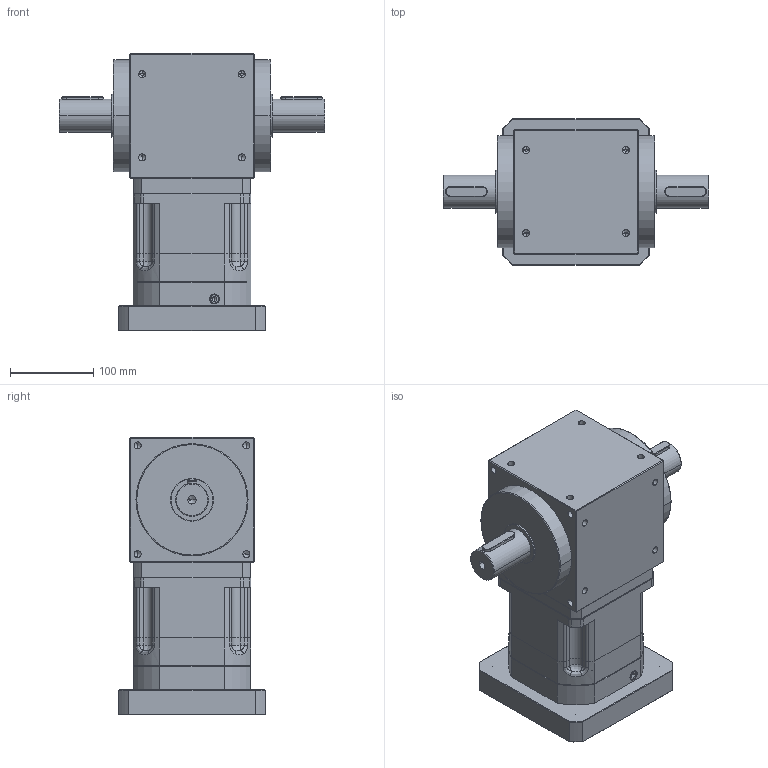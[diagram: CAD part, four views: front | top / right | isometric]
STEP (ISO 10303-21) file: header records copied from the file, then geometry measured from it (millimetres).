
FILE_DESCRIPTION (( 'STEP AP214' ), '1' );
FILE_NAME ('PAW150A-L1-2P(3-10) 35-114.3-200-M12.STEP', '2021-04-24T08:18:18', ( 'Microsoft' ), ( 'Microsoft China' ), 'SwSTEP 2.0', 'SolidWorks 2016', '' );
FILE_SCHEMA (( 'AUTOMOTIVE_DESIGN' ));
Length unit declared in the file: millimetre
Products named in the file (27): 一级齿圈Z108; PAW150A-L1-2P--35-114.3-200-M12; Hex socket set screws with flat point GB_GB_FASTENER_SCREWS_HSFP M12X16-N; 笢潔楊擘; Spring lock washers--Normal type GB_GB_FASTENER_WASHER_SW 8; Hexagon socket head cap screws GB_GB_FASTENER_SCREWS_HSHCS M10X35-N; Hexagon socket head cap screws GB_GB_FASTENER_SCREWS_HSHCS M10X30-N; Circlips for hole--Type B GB_GB_CONNECTING_PIECE_RINGS_CHB 80; 薊粣ん菜え35; Deep groove ball bearings GB_Rolling bearings 6011 GB 276-94; 薊粣ん35; PAW150A-L1-2P(3-10) 35-114.3-200-M12; 怮栠謫5; Plain parallel keys_GB_CONNECTING_PIECE_KEYS_CSK C6X18; Hexagon socket head cap screws GB_GB_FASTENER_SCREWS_HSHCS M8X35-N; Spring lock washers--Normal type GB_GB_FASTENER_WASHER_SW 10; 俴陎粣13.513; 俴陎謫5; 幗渀粣創13.513X18.513; Circlips for hole--Type B GB_GB_CONNECTING_PIECE_RINGS_CHB 110; 蚐猾60X110X12; 萇儂楊擘D114.3M12; Deep groove ball bearings GB_Rolling bearings 61821 GB 276-94; Deep groove ball bearings GB_Rolling bearings 6212 GB 276-94; 怀堤粣5; 俴陎謫菜え13.6X27; Circlips for shaft--Type A large GB_GB_CONNECTING_PIECE_RING_RRA 55
Assembly tree (54 placements, depth 2):
  PAW150A-L1-2P(3-10) 35-114.3-200-M12
    一级齿圈Z108
    怀堤粣5
    Deep groove ball bearings GB_Rolling bearings 6212 GB 276-94
    Deep groove ball bearings GB_Rolling bearings 61821 GB 276-94
    Deep groove ball bearings GB_Rolling bearings 6011 GB 276-94
    萇儂楊擘D114.3M12
    笢潔楊擘
    薊粣ん35
    蚐猾60X110X12
    Circlips for hole--Type B GB_GB_CONNECTING_PIECE_RINGS_CHB 110
    怮栠謫5
    俴陎粣13.513  x3
    幗渀粣創13.513X18.513  x3
    俴陎謫菜え13.6X27  x6
    俴陎謫5  x3
    Hex socket set screws with flat point GB_GB_FASTENER_SCREWS_HSFP M12X16-N  x2
    Spring lock washers--Normal type GB_GB_FASTENER_WASHER_SW 8  x4
    Hexagon socket head cap screws GB_GB_FASTENER_SCREWS_HSHCS M8X35-N  x4
    Hexagon socket head cap screws GB_GB_FASTENER_SCREWS_HSHCS M10X30-N
    Plain parallel keys_GB_CONNECTING_PIECE_KEYS_CSK C6X18
    Circlips for hole--Type B GB_GB_CONNECTING_PIECE_RINGS_CHB 80
    Spring lock washers--Normal type GB_GB_FASTENER_WASHER_SW 10  x6
    Hexagon socket head cap screws GB_GB_FASTENER_SCREWS_HSHCS M10X35-N  x6
    薊粣ん菜え35
    Circlips for shaft--Type A large GB_GB_CONNECTING_PIECE_RING_RRA 55
    PAW150A-L1-2P--35-114.3-200-M12
Bounding box: 320 x 176 x 333.5 mm (x, y, z)
Volume: 7350197 mm3; surface area: 797107.5 mm2
Topology: 54 solids, 54 shells, 2080 faces, 6219 edges, 3878 vertices
Faces by surface type: cylinder 665, bspline 569, plane 530, cone 276, torus 40
Entity records: 96165 total; most frequent: CARTESIAN_POINT 34246, ORIENTED_EDGE 10166, DIRECTION 7595, EDGE_CURVE 5083, VERTEX_POINT 3337, AXIS2_PLACEMENT_3D 3199, CIRCLE 1995, EDGE_LOOP 1886
